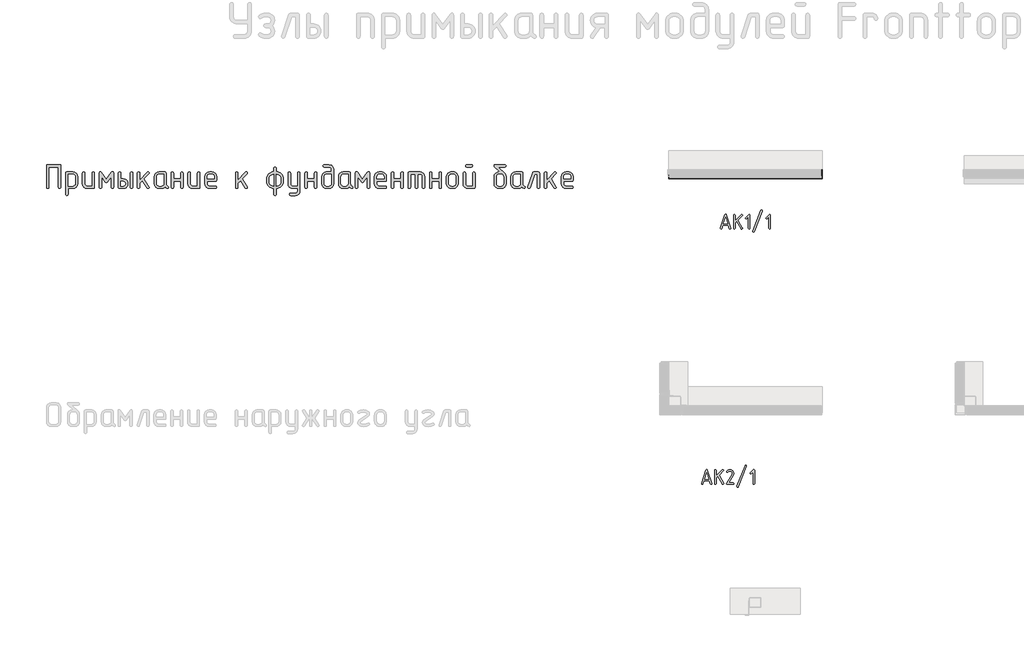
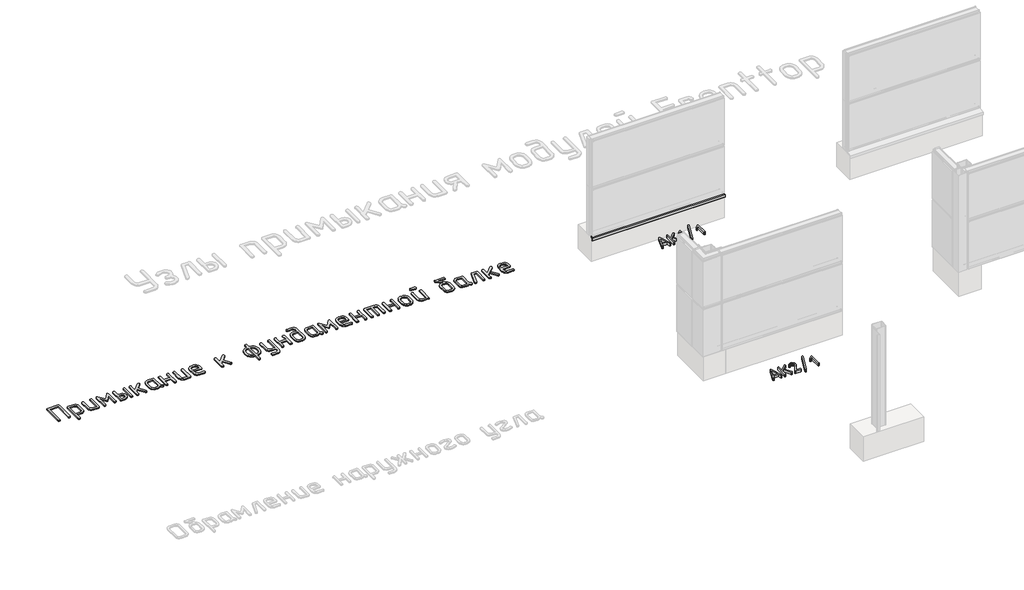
# One storey, part 20 of 37: 4 proxies.
"""IFC4 building model written with IfcOpenShell, lengths in millimetres."""

from ifc_helpers import new_model, si_unit, origin, origin_with_axes, place, context, project, spatial, polyline, outline, extrude, transform, mapped, element, save
from components import generic_models_c024c772

model = new_model("IFC4")

# Units and contexts
model_context = context("Model", 3, world=origin())
ifc_project = project(units=[si_unit("LENGTHUNIT", "METRE", prefix="MILLI")], contexts=[model_context])

# Site, building, storey
site = spatial("IfcSite", under=ifc_project)
building = spatial("IfcBuilding", under=site)
storey = spatial("IfcBuildingStorey", under=building, Name="Этаж 01", Elevation=0.0)

# Proxies
placement = place(None, origin())
element("IfcBuildingElementProxy", 1, Name="250 мм ГОСТ 2.304", ObjectType="250 мм ГОСТ 2.304", at=placement, inside=storey, context=model_context, shape_type="SweptSolid", body=[
    extrude(outline(polyline([(46740.8154984, -10106.1300608), (46722.9821438, -10160.0681368), (46718.7740979, -10166.3567408), (46711.2809603, -10168.4529422), (46702.5207159, -10165.1678505), (46698.5160328, -10156.8143318), (46699.6423499, -10152.0587706), (46774.3547197, -9927.9216611), (46779.2667139, -9919.9905113), (46785.9933301, -9917.3467947), (46793.0953853, -9919.9905113), (46797.6319404, -9927.9216611), (46872.7197493, -10152.0587706), (46873.4706274, -10156.8143318), (46869.4659443, -10165.1678505), (46860.7056999, -10168.4529422), (46855.2618338, -10167.7646372), (46849.0670895, -10160.0681368), (46831.1711617, -10106.1300608), (46740.8154984, -10106.1300608)]), holes=[polyline([(46822.7863564, -10080.9756448), (46785.9933301, -9970.9720048), (46749.2003037, -10080.9756448), (46822.7863564, -10080.9756448)])]), origin_with_axes(), (0.0, 0.0, 1.0), 50.0),
    extrude(outline(polyline([(46946.4935215, -10027.4130078), (47051.0532954, -9923.5415389), (47059.8135397, -9919.5368558), (47068.7615036, -9923.385106), (47072.5784672, -9932.3017833), (47068.5737841, -9941.0620276), (46994.6122924, -10015.0235194), (47070.7638452, -10150.2441485), (47072.5784672, -10156.8143318), (47068.5737841, -10165.7310091), (47059.4381007, -10169.2038202), (47053.3528595, -10167.4674147), (47048.8632343, -10162.2581979), (46976.0280597, -10032.1685691), (46946.4935215, -10061.3276682), (46946.4935215, -10156.4388927), (46943.0207104, -10165.7310091), (46934.1040331, -10168.8283812), (46925.1560692, -10165.5432896), (46921.3391055, -10156.4388927), (46921.3391055, -9932.3017833), (46925.1560692, -9923.1973865), (46934.1040331, -9919.9122948), (46942.6765579, -9923.1973865), (46946.4935215, -9932.3017833), (46946.4935215, -10027.4130078)])), origin_with_axes(), (0.0, 0.0, 1.0), 50.0),
    extrude(outline(polyline([(47196.2856323, -10156.4388927), (47192.8128212, -10165.7310091), (47183.8961439, -10168.8283812), (47175.323619, -10165.5432896), (47171.5066554, -10156.4388927), (47171.5066554, -9962.2117605), (47142.7229953, -9990.6199815), (47134.33819, -9994.6246646), (47125.3902261, -9990.807701), (47121.5732625, -9981.8597371), (47125.5779457, -9973.1620659), (47175.1358995, -9923.5415389), (47186.086205, -9918.0976728), (47193.3759797, -9921.7582035), (47196.2856323, -9932.3017833), (47196.2856323, -10156.4388927)])), origin_with_axes(), (0.0, 0.0, 1.0), 50.0),
    extrude(outline(polyline([(47407.1572289, -9861.9695356), (47270.1219777, -10210.7524078), (47265.3977031, -10216.571713), (47258.8588064, -10218.7617741), (47249.723123, -10215.2889629), (47245.7184398, -10206.3722856), (47246.4693179, -10201.6167244), (47383.5045691, -9852.8964254), (47388.2288437, -9847.014547), (47394.7677404, -9844.824486), (47403.9034238, -9848.4850166), (47407.908107, -9857.2139744), (47407.1572289, -9861.9695356)])), origin_with_axes(), (0.0, 0.0, 1.0), 50.0),
    extrude(outline(polyline([(47544.6930655, -10156.4388927), (47541.2202543, -10165.7310091), (47532.303577, -10168.8283812), (47523.7310521, -10165.5432896), (47519.9140885, -10156.4388927), (47519.9140885, -9962.2117605), (47491.1304285, -9990.6199815), (47482.7456231, -9994.6246646), (47473.7976593, -9990.807701), (47469.9806956, -9981.8597371), (47473.9853788, -9973.1620659), (47523.5433326, -9923.5415389), (47534.4936381, -9918.0976728), (47541.7834129, -9921.7582035), (47544.6930655, -9932.3017833), (47544.6930655, -10156.4388927)])), origin_with_axes(), (0.0, 0.0, 1.0), 50.0),
])
element("IfcBuildingElementProxy", 2, Name="400 мм ГОСТ 2.304", ObjectType="400 мм ГОСТ 2.304", at=placement, inside=storey, context=model_context, shape_type="SweptSolid", body=[
    extrude(outline(polyline([(35529.9614469, -9460.1102375), (35528.5584312, -9468.8696058), (35524.3493841, -9475.1262975), (35509.9400336, -9480.1316508), (35496.0868334, -9474.8229428), (35491.4606735, -9468.4904124), (35489.9186202, -9460.1102375), (35489.9186202, -9117.926082), (35329.1406039, -9117.926082), (35329.1406039, -9460.1102375), (35327.7375882, -9468.8696058), (35323.528541, -9475.1262975), (35309.1191905, -9480.1316508), (35294.6592809, -9474.8229428), (35290.033121, -9468.4904124), (35288.4910677, -9460.1102375), (35288.4910677, -9097.9046686), (35289.7803253, -9088.8798649), (35293.6480984, -9082.4335765), (35300.0943868, -9078.5658034), (35309.1191905, -9077.2765458), (35509.9400336, -9077.2765458), (35518.6994019, -9078.5658034), (35524.9560936, -9082.4335765), (35529.9614469, -9097.9046686), (35529.9614469, -9460.1102375)])), origin_with_axes(), (0.0, 0.0, 1.0), 20.0),
    extrude(outline(polyline([(35652.7190015, -9480.1316508), (35652.7190015, -9580.8454271), (35651.3159858, -9589.6047955), (35647.1069387, -9595.8614871), (35632.6975882, -9600.8668405), (35618.2376785, -9595.5581324), (35613.6115186, -9589.225602), (35612.0694653, -9580.8454271), (35612.0694653, -9218.6398582), (35613.358723, -9209.8804899), (35617.226496, -9203.6237982), (35632.6975882, -9198.6184449), (35732.8046549, -9198.6184449), (35764.1765918, -9204.3569055), (35789.9364658, -9221.5722875), (35807.6068798, -9247.6355162), (35813.4970179, -9278.7040983), (35813.4970179, -9399.4392879), (35807.6068798, -9430.9629021), (35800.2442073, -9444.7339437), (35789.9364658, -9457.1778083), (35764.1765918, -9474.3931902), (35732.8046549, -9480.1316508), (35652.7190015, -9480.1316508)]), holes=[polyline([(35652.7190015, -9440.0888241), (35732.8046549, -9440.0888241), (35748.566462, -9437.1437551), (35761.6739151, -9428.3085481), (35770.5091221, -9415.201095), (35773.4541911, -9399.4392879), (35773.4541911, -9278.7040983), (35770.5091221, -9263.3973233), (35761.6739151, -9250.4415476), (35748.566462, -9241.6063406), (35732.8046549, -9238.6612716), (35652.7190015, -9238.6612716), (35652.7190015, -9440.0888241)])]), origin_with_axes(), (0.0, 0.0, 1.0), 20.0),
    extrude(outline(polyline([(36098.2460078, -9460.1102375), (36093.2406545, -9475.1262975), (36078.2245944, -9480.1316508), (35977.5108182, -9480.1316508), (35946.4422361, -9474.3931902), (35920.3790073, -9457.1778083), (35910.0712658, -9444.7339437), (35902.7085933, -9430.9629021), (35896.8184553, -9399.4392879), (35896.8184553, -9218.6398582), (35898.2973097, -9210.2596833), (35902.7338728, -9203.927153), (35917.4465781, -9198.6184449), (35931.2997783, -9203.6237982), (35935.9259382, -9209.8804899), (35937.4679915, -9218.6398582), (35937.4679915, -9399.4392879), (35940.3372218, -9415.201095), (35948.9449128, -9428.3085481), (35961.8248498, -9437.1437551), (35977.5108182, -9440.0888241), (36058.2031811, -9440.0888241), (36058.2031811, -9218.6398582), (36059.6693957, -9210.2596833), (36064.0680395, -9203.927153), (36078.2245944, -9198.6184449), (36092.3305902, -9203.6237982), (36096.7671534, -9209.8804899), (36098.2460078, -9218.6398582), (36098.2460078, -9460.1102375)])), origin_with_axes(), (0.0, 0.0, 1.0), 20.0),
    extrude(outline(polyline([(36423.0378244, -9460.1102375), (36421.55897, -9468.4904124), (36417.1224069, -9474.8229428), (36403.0164111, -9480.1316508), (36388.5565014, -9475.1262975), (36384.3853737, -9468.8696058), (36382.9949977, -9460.1102375), (36382.9949977, -9281.029818), (36318.7849094, -9371.2272964), (36310.5184926, -9379.1145198), (36302.3026348, -9381.7435943), (36293.7834223, -9379.1145198), (36285.8203602, -9371.2272964), (36222.2169814, -9281.029818), (36222.2169814, -9460.1102375), (36220.6749281, -9468.4904124), (36216.0487682, -9474.8229428), (36202.195568, -9480.1316508), (36187.179508, -9475.1262975), (36182.9704609, -9468.8696058), (36181.5674452, -9460.1102375), (36181.5674452, -9218.6398582), (36186.5727985, -9201.2475194), (36192.2480603, -9196.6213595), (36199.2631388, -9195.0793062), (36209.6783185, -9198.037015), (36218.6778427, -9206.9101413), (36302.3026348, -9324.6117835), (36386.5341365, -9206.9101413), (36395.6347789, -9198.037015), (36405.3421308, -9195.0793062), (36412.3572094, -9196.6213595), (36418.0324711, -9201.2475194), (36423.0378244, -9218.6398582), (36423.0378244, -9460.1102375)])), origin_with_axes(), (0.0, 0.0, 1.0), 20.0),
    extrude(outline(polyline([(36746.6162221, -9460.1102375), (36745.2132064, -9468.8696058), (36741.0041593, -9475.1262975), (36726.5948087, -9480.1316508), (36712.7416086, -9474.8229428), (36708.1154487, -9468.4904124), (36706.5733954, -9460.1102375), (36706.5733954, -9218.6398582), (36708.03961, -9210.2596833), (36712.4382538, -9203.927153), (36726.5948087, -9198.6184449), (36740.7008045, -9203.6237982), (36745.1373677, -9209.8804899), (36746.6162221, -9218.6398582), (36746.6162221, -9460.1102375)])), origin_with_axes(), (0.0, 0.0, 1.0), 20.0),
    extrude(outline(polyline([(36545.7953791, -9319.3536345), (36585.8382058, -9319.3536345), (36603.9636519, -9320.9020077), (36620.1172923, -9325.5471273), (36634.2991267, -9333.2889932), (36646.5091553, -9344.1276056), (36661.5252153, -9368.825738), (36666.5305687, -9399.4392879), (36661.5252153, -9430.0781175), (36646.5091553, -9454.8520885), (36634.5266428, -9465.911897), (36620.420647, -9473.8117603), (36604.191168, -9478.5516782), (36585.8382058, -9480.1316508), (36525.7739657, -9480.1316508), (36510.3028736, -9475.1262975), (36506.4351005, -9468.8696058), (36505.1458428, -9460.1102375), (36505.1458428, -9218.6398582), (36506.6246972, -9210.2596833), (36511.0612604, -9203.927153), (36525.7739657, -9198.6184449), (36539.6271658, -9203.6237982), (36544.2533258, -9209.8804899), (36545.7953791, -9218.6398582), (36545.7953791, -9319.3536345)]), holes=[polyline([(36545.7953791, -9359.3964612), (36545.7953791, -9440.0888241), (36585.8382058, -9440.0888241), (36602.5985556, -9437.0679164), (36615.2636163, -9428.0051933), (36623.2266784, -9414.8219016), (36625.8810325, -9399.4392879), (36623.5300332, -9384.2715505), (36616.4770353, -9371.7328876), (36603.5086198, -9362.4805678), (36585.8382058, -9359.3964612), (36545.7953791, -9359.3964612)])]), origin_with_axes(), (0.0, 0.0, 1.0), 20.0),
    extrude(outline(polyline([(36910.0233129, -9348.1723356), (36865.2279285, -9395.2934397), (36865.2279285, -9460.1102375), (36863.8249128, -9468.8696058), (36859.6158657, -9475.1262975), (36845.2065151, -9480.1316508), (36831.1005194, -9474.8229428), (36826.6639562, -9468.4904124), (36825.1851018, -9460.1102375), (36825.1851018, -9218.6398582), (36826.5881175, -9210.2596833), (36830.7971646, -9203.927153), (36845.2065151, -9198.6184449), (36859.0597153, -9203.6237982), (36863.6858752, -9209.8804899), (36865.2279285, -9218.6398582), (36865.2279285, -9337.0493281), (36993.0413956, -9203.3710026), (36998.7545766, -9198.5173266), (37005.377822, -9196.8994346), (37013.1386476, -9198.5173266), (37019.8377316, -9203.3710026), (37024.4638915, -9210.4240005), (37026.0059448, -9218.6398582), (37019.5343769, -9234.0098321), (36938.2353045, -9318.746925), (37021.2533871, -9447.1671016), (37026.0059448, -9460.716947), (37024.3880528, -9468.7179285), (37019.5343769, -9475.1262975), (37005.377822, -9480.7383603), (36997.0102868, -9478.8171136), (36990.7156758, -9473.0533734), (36910.0233129, -9348.1723356)])), origin_with_axes(), (0.0, 0.0, 1.0), 20.0),
    extrude(outline(polyline([(37294.2726601, -9453.6386695), (37282.3407067, -9464.2813653), (37267.7796788, -9472.7500186), (37251.4490816, -9478.2862428), (37234.2084201, -9480.1316508), (37194.1655934, -9480.1316508), (37163.0970113, -9474.3931902), (37137.0337825, -9457.1778083), (37126.726041, -9444.7339437), (37119.3633685, -9430.9629021), (37113.4732304, -9399.4392879), (37113.4732304, -9278.7040983), (37119.3633685, -9248.0905483), (37137.0337825, -9222.178997), (37163.0970113, -9204.5085829), (37194.1655934, -9198.6184449), (37294.8793696, -9198.6184449), (37309.8954296, -9203.6237982), (37314.900783, -9218.6398582), (37314.900783, -9399.4392879), (37316.8093899, -9412.4709023), (37322.5352108, -9424.4660546), (37331.3704178, -9434.5399602), (37342.6071833, -9441.8078344), (37352.3145352, -9448.9113914), (37355.5503192, -9459.503528), (37349.9382564, -9474.2667924), (37343.5298873, -9479.1204684), (37335.5289058, -9480.7383603), (37327.2372094, -9478.4126406), (37308.6820107, -9467.7699449), (37294.2726601, -9453.6386695)]), holes=[polyline([(37274.8579563, -9399.4392879), (37274.8579563, -9238.6612716), (37194.1655934, -9238.6612716), (37178.4796249, -9241.6063406), (37165.5996879, -9250.4415476), (37156.991997, -9263.3973233), (37154.1227666, -9278.7040983), (37154.1227666, -9399.4392879), (37156.991997, -9415.201095), (37165.5996879, -9428.3085481), (37178.4796249, -9437.1437551), (37194.1655934, -9440.0888241), (37234.2084201, -9440.0888241), (37249.9702272, -9437.1437551), (37263.0776802, -9428.3085481), (37271.9128873, -9415.201095), (37274.8579563, -9399.4392879)])]), origin_with_axes(), (0.0, 0.0, 1.0), 20.0),
    extrude(outline(polyline([(37559.6069462, -9319.3536345), (37559.6069462, -9218.6398582), (37561.0731608, -9210.2596833), (37565.4718047, -9203.927153), (37579.6283596, -9198.6184449), (37593.7343553, -9203.6237982), (37598.1709185, -9209.8804899), (37599.6497729, -9218.6398582), (37599.6497729, -9460.1102375), (37598.2467572, -9468.8696058), (37594.0377101, -9475.1262975), (37579.6283596, -9480.1316508), (37565.4718047, -9474.8229428), (37561.0731608, -9468.4904124), (37559.6069462, -9460.1102375), (37559.6069462, -9359.3964612), (37438.8717566, -9359.3964612), (37438.8717566, -9460.1102375), (37437.4687409, -9468.8696058), (37433.2596938, -9475.1262975), (37418.8503432, -9480.1316508), (37404.3904336, -9474.8229428), (37399.7642737, -9468.4904124), (37398.2222204, -9460.1102375), (37398.2222204, -9218.6398582), (37399.7010748, -9210.2596833), (37404.137638, -9203.927153), (37418.8503432, -9198.6184449), (37432.7035434, -9203.6237982), (37437.3297033, -9209.8804899), (37438.8717566, -9218.6398582), (37438.8717566, -9319.3536345), (37559.6069462, -9319.3536345)])), origin_with_axes(), (0.0, 0.0, 1.0), 20.0),
    extrude(outline(polyline([(37884.3987629, -9460.1102375), (37879.3934095, -9475.1262975), (37864.3773495, -9480.1316508), (37763.6635732, -9480.1316508), (37732.5949911, -9474.3931902), (37706.5317624, -9457.1778083), (37696.2240209, -9444.7339437), (37688.8613483, -9430.9629021), (37682.9712103, -9399.4392879), (37682.9712103, -9218.6398582), (37684.4500647, -9210.2596833), (37688.8866279, -9203.927153), (37703.5993332, -9198.6184449), (37717.4525333, -9203.6237982), (37722.0786932, -9209.8804899), (37723.6207465, -9218.6398582), (37723.6207465, -9399.4392879), (37726.4899768, -9415.201095), (37735.0976678, -9428.3085481), (37747.9776048, -9437.1437551), (37763.6635732, -9440.0888241), (37844.3559361, -9440.0888241), (37844.3559361, -9218.6398582), (37845.8221508, -9210.2596833), (37850.2207946, -9203.927153), (37864.3773495, -9198.6184449), (37878.4833453, -9203.6237982), (37882.9199085, -9209.8804899), (37884.3987629, -9218.6398582), (37884.3987629, -9460.1102375)])), origin_with_axes(), (0.0, 0.0, 1.0), 20.0),
    extrude(outline(polyline([(38008.3697365, -9359.3964612), (38008.3697365, -9399.4392879), (38011.2389668, -9415.201095), (38019.8466578, -9428.3085481), (38032.7265948, -9437.1437551), (38048.4125632, -9440.0888241), (38149.1263394, -9440.0888241), (38157.8857078, -9441.4918398), (38164.1423995, -9445.700887), (38169.1477528, -9460.1102375), (38163.8390447, -9473.9634376), (38157.5065143, -9478.5895975), (38149.1263394, -9480.1316508), (38048.4125632, -9480.1316508), (38017.3439811, -9474.3931902), (37991.2807523, -9457.1778083), (37980.9730108, -9444.7339437), (37973.6103383, -9430.9629021), (37967.7202003, -9399.4392879), (37967.7202003, -9278.7040983), (37973.6103383, -9247.7871936), (37980.9730108, -9234.3195068), (37991.2807523, -9222.178997), (38017.3439811, -9204.5085829), (38048.4125632, -9198.6184449), (38088.4553899, -9198.6184449), (38119.8273267, -9204.3569055), (38145.5872007, -9221.5722875), (38163.2576148, -9247.6355162), (38169.1477528, -9278.7040983), (38169.1477528, -9339.3750479), (38164.1423995, -9354.3911079), (38149.1263394, -9359.3964612), (38008.3697365, -9359.3964612)]), holes=[polyline([(38008.3697365, -9319.3536345), (38129.1049261, -9319.3536345), (38129.1049261, -9278.7040983), (38126.1598571, -9263.3973233), (38117.32465, -9250.4415476), (38104.217197, -9241.6063406), (38088.4553899, -9238.6612716), (38048.4125632, -9238.6612716), (38032.7265948, -9241.6063406), (38019.8466578, -9250.4415476), (38011.2389668, -9263.3973233), (38008.3697365, -9278.7040983), (38008.3697365, -9319.3536345)])]), origin_with_axes(), (0.0, 0.0, 1.0), 20.0),
    extrude(outline(polyline([(38573.2162769, -9348.1723356), (38528.4208924, -9395.2934397), (38528.4208924, -9460.1102375), (38527.0178767, -9468.8696058), (38522.8088296, -9475.1262975), (38508.3994791, -9480.1316508), (38494.2934833, -9474.8229428), (38489.8569201, -9468.4904124), (38488.3780657, -9460.1102375), (38488.3780657, -9218.6398582), (38489.7810814, -9210.2596833), (38493.9901286, -9203.927153), (38508.3994791, -9198.6184449), (38522.2526792, -9203.6237982), (38526.8788391, -9209.8804899), (38528.4208924, -9218.6398582), (38528.4208924, -9337.0493281), (38656.2343595, -9203.3710026), (38661.9475406, -9198.5173266), (38668.5707859, -9196.8994346), (38676.3316116, -9198.5173266), (38683.0306956, -9203.3710026), (38687.6568555, -9210.4240005), (38689.1989088, -9218.6398582), (38682.7273408, -9234.0098321), (38601.4282684, -9318.746925), (38684.4463511, -9447.1671016), (38689.1989088, -9460.716947), (38687.5810168, -9468.7179285), (38682.7273408, -9475.1262975), (38668.5707859, -9480.7383603), (38660.2032508, -9478.8171136), (38653.9086398, -9473.0533734), (38573.2162769, -9348.1723356)])), origin_with_axes(), (0.0, 0.0, 1.0), 20.0),
    extrude(outline(polyline([(39177.4989345, -9198.6184449), (39201.8305132, -9200.7924872), (39224.1650065, -9207.3146143), (39244.5024144, -9218.1848261), (39262.8427369, -9233.4031226), (39278.3264688, -9251.7813644), (39289.3862773, -9272.2325304), (39296.0221624, -9294.7566204), (39298.2341241, -9319.3536345), (39298.2341241, -9359.3964612), (39296.0253224, -9383.5036838), (39289.3989171, -9405.7718183), (39278.3549083, -9426.2008646), (39262.893296, -9444.7908227), (39244.3033379, -9460.252435), (39223.8742916, -9471.2964438), (39201.6061571, -9477.9228491), (39177.4989345, -9480.1316508), (39177.4989345, -9580.8454271), (39176.0959188, -9589.6047955), (39171.8868717, -9595.8614871), (39157.4775211, -9600.8668405), (39143.0176115, -9595.5581324), (39138.3914516, -9589.225602), (39136.8493983, -9580.8454271), (39136.8493983, -9480.1316508), (39112.7421757, -9477.9228491), (39090.4740412, -9471.2964438), (39070.0449949, -9460.252435), (39051.4550368, -9444.7908227), (39035.9934245, -9426.2008646), (39024.9494157, -9405.7718183), (39018.3230104, -9383.5036838), (39016.1142087, -9359.3964612), (39016.1142087, -9319.3536345), (39018.3198505, -9295.0220558), (39024.9367759, -9272.6875625), (39035.964985, -9252.3501546), (39051.4044777, -9234.0098321), (39070.0165554, -9218.5261002), (39090.4614014, -9207.4662917), (39112.7390157, -9200.8304066), (39136.8493983, -9198.6184449), (39136.8493983, -9137.9474953), (39138.3156129, -9129.5673204), (39142.7142567, -9123.2347901), (39157.4775211, -9117.926082), (39171.3307213, -9123.2347901), (39175.9568812, -9129.5673204), (39177.4989345, -9137.9474953), (39177.4989345, -9198.6184449)]), holes=[polyline([(39177.4989345, -9238.6612716), (39177.4989345, -9440.0888241), (39208.4158392, -9434.1986861), (39221.883526, -9426.8360136), (39234.0240358, -9416.5282721), (39251.6944499, -9390.4650433), (39257.5845879, -9359.3964612), (39257.5845879, -9319.3536345), (39251.6944499, -9288.2850524), (39234.0240358, -9262.2218237), (39208.1124845, -9244.5514096), (39177.4989345, -9238.6612716)]), polyline([(39136.8493983, -9440.0888241), (39136.8493983, -9238.6612716), (39106.2358483, -9244.5514096), (39080.3242969, -9262.2218237), (39062.6538829, -9288.2850524), (39056.7637449, -9319.3536345), (39056.7637449, -9359.3964612), (39062.6538829, -9390.4650433), (39080.3242969, -9416.5282721), (39106.2358483, -9434.1986861), (39136.8493983, -9440.0888241)])]), origin_with_axes(), (0.0, 0.0, 1.0), 20.0),
    extrude(outline(polyline([(39539.9067399, -9480.1316508), (39459.214377, -9480.1316508), (39428.1457949, -9474.3931902), (39402.0825661, -9457.1778083), (39391.7748246, -9444.7339437), (39384.4121521, -9430.9629021), (39378.522014, -9399.4392879), (39378.522014, -9218.6398582), (39380.0008684, -9210.2596833), (39384.4374316, -9203.927153), (39399.1501369, -9198.6184449), (39413.003337, -9203.6237982), (39417.6294969, -9209.8804899), (39419.1715502, -9218.6398582), (39419.1715502, -9399.4392879), (39422.0407806, -9415.201095), (39430.6484715, -9428.3085481), (39443.5284085, -9437.1437551), (39459.214377, -9440.0888241), (39539.9067399, -9440.0888241), (39539.9067399, -9218.6398582), (39541.3729545, -9210.2596833), (39545.7715983, -9203.927153), (39559.9281532, -9198.6184449), (39574.034149, -9203.6237982), (39578.4707122, -9209.8804899), (39579.9495666, -9218.6398582), (39579.9495666, -9520.1744776), (39574.2111059, -9551.5464144), (39556.995724, -9577.3062884), (39544.5518594, -9587.6140299), (39530.7808179, -9594.9767024), (39499.2572037, -9600.8668405), (39419.1715502, -9600.8668405), (39410.7913753, -9599.3879861), (39404.458845, -9594.9514229), (39399.1501369, -9580.8454271), (39404.1554902, -9566.6888722), (39410.4121819, -9562.2902284), (39419.1715502, -9560.8240138), (39499.2572037, -9560.8240138), (39515.0190108, -9557.8789447), (39528.1264638, -9549.0437377), (39536.9616709, -9535.9362847), (39539.9067399, -9520.1744776), (39539.9067399, -9480.1316508)])), origin_with_axes(), (0.0, 0.0, 1.0), 20.0),
    extrude(outline(polyline([(39824.6557298, -9319.3536345), (39824.6557298, -9218.6398582), (39826.1219444, -9210.2596833), (39830.5205883, -9203.927153), (39844.6771432, -9198.6184449), (39858.7831389, -9203.6237982), (39863.2197021, -9209.8804899), (39864.6985565, -9218.6398582), (39864.6985565, -9460.1102375), (39863.2955408, -9468.8696058), (39859.0864937, -9475.1262975), (39844.6771432, -9480.1316508), (39830.5205883, -9474.8229428), (39826.1219444, -9468.4904124), (39824.6557298, -9460.1102375), (39824.6557298, -9359.3964612), (39703.9205402, -9359.3964612), (39703.9205402, -9460.1102375), (39702.5175245, -9468.8696058), (39698.3084773, -9475.1262975), (39683.8991268, -9480.1316508), (39669.4392172, -9474.8229428), (39664.8130573, -9468.4904124), (39663.271004, -9460.1102375), (39663.271004, -9218.6398582), (39664.7498584, -9210.2596833), (39669.1864216, -9203.927153), (39683.8991268, -9198.6184449), (39697.752327, -9203.6237982), (39702.3784869, -9209.8804899), (39703.9205402, -9218.6398582), (39703.9205402, -9319.3536345), (39824.6557298, -9319.3536345)])), origin_with_axes(), (0.0, 0.0, 1.0), 20.0),
    extrude(outline(polyline([(40109.4047197, -9198.6184449), (40109.4047197, -9157.9689087), (40106.4596507, -9142.2829403), (40097.6244437, -9129.4030033), (40084.5169906, -9120.7953123), (40068.7551835, -9117.926082), (39988.6695301, -9117.926082), (39980.2893552, -9116.4598674), (39973.9568248, -9112.0612235), (39968.6481168, -9097.9046686), (39973.6534701, -9083.4953181), (39979.9101618, -9078.8312388), (39988.6695301, -9077.2765458), (40068.7551835, -9077.2765458), (40100.1271204, -9083.1666838), (40113.7085652, -9090.5293563), (40125.8869944, -9100.8370978), (40143.5574084, -9126.9003266), (40149.4475465, -9157.9689087), (40149.4475465, -9399.4392879), (40143.5574084, -9430.9629021), (40136.1947359, -9444.7339437), (40125.8869944, -9457.1778083), (40100.1271204, -9474.3931902), (40068.7551835, -9480.1316508), (40028.7123568, -9480.1316508), (39997.6437747, -9474.3931902), (39971.580546, -9457.1778083), (39961.2728045, -9444.7339437), (39953.9101319, -9430.9629021), (39948.0199939, -9399.4392879), (39948.0199939, -9278.7040983), (39953.9101319, -9248.0905483), (39971.580546, -9222.178997), (39997.6437747, -9204.5085829), (40028.7123568, -9198.6184449), (40109.4047197, -9198.6184449)]), holes=[polyline([(40109.4047197, -9238.6612716), (40028.7123568, -9238.6612716), (40013.0263884, -9241.6063406), (40000.1464514, -9250.4415476), (39991.5387604, -9263.3973233), (39988.6695301, -9278.7040983), (39988.6695301, -9399.4392879), (39991.5387604, -9415.201095), (40000.1464514, -9428.3085481), (40013.0263884, -9437.1437551), (40028.7123568, -9440.0888241), (40068.7551835, -9440.0888241), (40084.5169906, -9437.1437551), (40097.6244437, -9428.3085481), (40106.4596507, -9415.201095), (40109.4047197, -9399.4392879), (40109.4047197, -9238.6612716)])]), origin_with_axes(), (0.0, 0.0, 1.0), 20.0),
    extrude(outline(polyline([(40413.5684135, -9453.6386695), (40401.6364601, -9464.2813653), (40387.0754322, -9472.7500186), (40370.744835, -9478.2862428), (40353.5041735, -9480.1316508), (40313.4613468, -9480.1316508), (40282.3927647, -9474.3931902), (40256.3295359, -9457.1778083), (40246.0217944, -9444.7339437), (40238.6591219, -9430.9629021), (40232.7689838, -9399.4392879), (40232.7689838, -9278.7040983), (40238.6591219, -9248.0905483), (40256.3295359, -9222.178997), (40282.3927647, -9204.5085829), (40313.4613468, -9198.6184449), (40414.175123, -9198.6184449), (40429.191183, -9203.6237982), (40434.1965364, -9218.6398582), (40434.1965364, -9399.4392879), (40436.1051433, -9412.4709023), (40441.8309642, -9424.4660546), (40450.6661712, -9434.5399602), (40461.9029367, -9441.8078344), (40471.6102886, -9448.9113914), (40474.8460726, -9459.503528), (40469.2340098, -9474.2667924), (40462.8256407, -9479.1204684), (40454.8246592, -9480.7383603), (40446.5329628, -9478.4126406), (40427.9777641, -9467.7699449), (40413.5684135, -9453.6386695)]), holes=[polyline([(40394.1537097, -9399.4392879), (40394.1537097, -9238.6612716), (40313.4613468, -9238.6612716), (40297.7753783, -9241.6063406), (40284.8954413, -9250.4415476), (40276.2877504, -9263.3973233), (40273.4185201, -9278.7040983), (40273.4185201, -9399.4392879), (40276.2877504, -9415.201095), (40284.8954413, -9428.3085481), (40297.7753783, -9437.1437551), (40313.4613468, -9440.0888241), (40353.5041735, -9440.0888241), (40369.2659806, -9437.1437551), (40382.3734336, -9428.3085481), (40391.2086407, -9415.201095), (40394.1537097, -9399.4392879)])]), origin_with_axes(), (0.0, 0.0, 1.0), 20.0),
    extrude(outline(polyline([(40758.988353, -9460.1102375), (40757.5094986, -9468.4904124), (40753.0729355, -9474.8229428), (40738.9669397, -9480.1316508), (40724.50703, -9475.1262975), (40720.3359023, -9468.8696058), (40718.9455263, -9460.1102375), (40718.9455263, -9281.029818), (40654.735438, -9371.2272964), (40646.4690212, -9379.1145198), (40638.2531634, -9381.7435943), (40629.7339509, -9379.1145198), (40621.7708888, -9371.2272964), (40558.16751, -9281.029818), (40558.16751, -9460.1102375), (40556.6254567, -9468.4904124), (40551.9992968, -9474.8229428), (40538.1460966, -9480.1316508), (40523.1300366, -9475.1262975), (40518.9209895, -9468.8696058), (40517.5179738, -9460.1102375), (40517.5179738, -9218.6398582), (40522.5233271, -9201.2475194), (40528.1985889, -9196.6213595), (40535.2136674, -9195.0793062), (40545.6288471, -9198.037015), (40554.6283713, -9206.9101413), (40638.2531634, -9324.6117835), (40722.484665, -9206.9101413), (40731.5853075, -9198.037015), (40741.2926594, -9195.0793062), (40748.307738, -9196.6213595), (40753.9829997, -9201.2475194), (40758.988353, -9218.6398582), (40758.988353, -9460.1102375)])), origin_with_axes(), (0.0, 0.0, 1.0), 20.0),
    extrude(outline(polyline([(40881.7459076, -9359.3964612), (40881.7459076, -9399.4392879), (40884.615138, -9415.201095), (40893.2228289, -9428.3085481), (40906.1027659, -9437.1437551), (40921.7887344, -9440.0888241), (41022.5025106, -9440.0888241), (41031.261879, -9441.4918398), (41037.5185706, -9445.700887), (41042.523924, -9460.1102375), (41037.2152159, -9473.9634376), (41030.8826855, -9478.5895975), (41022.5025106, -9480.1316508), (40921.7887344, -9480.1316508), (40890.7201523, -9474.3931902), (40864.6569235, -9457.1778083), (40854.349182, -9444.7339437), (40846.9865095, -9430.9629021), (40841.0963714, -9399.4392879), (40841.0963714, -9278.7040983), (40846.9865095, -9247.7871936), (40854.349182, -9234.3195068), (40864.6569235, -9222.178997), (40890.7201523, -9204.5085829), (40921.7887344, -9198.6184449), (40961.8315611, -9198.6184449), (40993.2034979, -9204.3569055), (41018.9633719, -9221.5722875), (41036.633786, -9247.6355162), (41042.523924, -9278.7040983), (41042.523924, -9339.3750479), (41037.5185706, -9354.3911079), (41022.5025106, -9359.3964612), (40881.7459076, -9359.3964612)]), holes=[polyline([(40881.7459076, -9319.3536345), (41002.4810973, -9319.3536345), (41002.4810973, -9278.7040983), (40999.5360283, -9263.3973233), (40990.7008212, -9250.4415476), (40977.5933682, -9241.6063406), (40961.8315611, -9238.6612716), (40921.7887344, -9238.6612716), (40906.1027659, -9241.6063406), (40893.2228289, -9250.4415476), (40884.615138, -9263.3973233), (40881.7459076, -9278.7040983), (40881.7459076, -9319.3536345)])]), origin_with_axes(), (0.0, 0.0, 1.0), 20.0),
    extrude(outline(polyline([(41287.2300872, -9319.3536345), (41287.2300872, -9218.6398582), (41288.6963018, -9210.2596833), (41293.0949457, -9203.927153), (41307.2515006, -9198.6184449), (41321.3574963, -9203.6237982), (41325.7940595, -9209.8804899), (41327.2729139, -9218.6398582), (41327.2729139, -9460.1102375), (41325.8698982, -9468.8696058), (41321.6608511, -9475.1262975), (41307.2515006, -9480.1316508), (41293.0949457, -9474.8229428), (41288.6963018, -9468.4904124), (41287.2300872, -9460.1102375), (41287.2300872, -9359.3964612), (41166.4948976, -9359.3964612), (41166.4948976, -9460.1102375), (41165.0918819, -9468.8696058), (41160.8828347, -9475.1262975), (41146.4734842, -9480.1316508), (41132.0135746, -9474.8229428), (41127.3874147, -9468.4904124), (41125.8453614, -9460.1102375), (41125.8453614, -9218.6398582), (41127.3242158, -9210.2596833), (41131.760779, -9203.927153), (41146.4734842, -9198.6184449), (41160.3266844, -9203.6237982), (41164.9528443, -9209.8804899), (41166.4948976, -9218.6398582), (41166.4948976, -9319.3536345), (41287.2300872, -9319.3536345)])), origin_with_axes(), (0.0, 0.0, 1.0), 20.0),
    extrude(outline(polyline([(41531.3295409, -9238.6612716), (41451.2438875, -9238.6612716), (41451.2438875, -9460.1102375), (41449.8408718, -9468.8696058), (41445.6318247, -9475.1262975), (41431.2224742, -9480.1316508), (41416.7625645, -9474.8229428), (41412.1364046, -9468.4904124), (41410.5943513, -9460.1102375), (41410.5943513, -9218.6398582), (41411.883609, -9209.8804899), (41415.751382, -9203.6237982), (41431.2224742, -9198.6184449), (41612.0219039, -9198.6184449), (41643.3938407, -9204.3569055), (41669.1537147, -9221.5722875), (41686.8241288, -9247.6355162), (41692.7142668, -9278.7040983), (41692.7142668, -9460.1102375), (41691.3112511, -9468.8696058), (41687.1022039, -9475.1262975), (41672.6928534, -9480.1316508), (41658.2329438, -9474.8229428), (41653.6067839, -9468.4904124), (41652.0647306, -9460.1102375), (41652.0647306, -9278.7040983), (41649.1955002, -9263.3973233), (41640.5878093, -9250.4415476), (41627.7078723, -9241.6063406), (41612.0219039, -9238.6612716), (41571.9790771, -9238.6612716), (41571.9790771, -9460.1102375), (41570.5760614, -9468.8696058), (41566.3670143, -9475.1262975), (41551.9576638, -9480.1316508), (41537.4977541, -9474.8229428), (41532.8715942, -9468.4904124), (41531.3295409, -9460.1102375), (41531.3295409, -9238.6612716)])), origin_with_axes(), (0.0, 0.0, 1.0), 20.0),
    extrude(outline(polyline([(41934.3868825, -9319.3536345), (41934.3868825, -9218.6398582), (41935.8530971, -9210.2596833), (41940.251741, -9203.927153), (41954.4082959, -9198.6184449), (41968.5142916, -9203.6237982), (41972.9508548, -9209.8804899), (41974.4297092, -9218.6398582), (41974.4297092, -9460.1102375), (41973.0266935, -9468.8696058), (41968.8176464, -9475.1262975), (41954.4082959, -9480.1316508), (41940.251741, -9474.8229428), (41935.8530971, -9468.4904124), (41934.3868825, -9460.1102375), (41934.3868825, -9359.3964612), (41813.6516929, -9359.3964612), (41813.6516929, -9460.1102375), (41812.2486772, -9468.8696058), (41808.0396301, -9475.1262975), (41793.6302795, -9480.1316508), (41779.1703699, -9474.8229428), (41774.54421, -9468.4904124), (41773.0021567, -9460.1102375), (41773.0021567, -9218.6398582), (41774.4810111, -9210.2596833), (41778.9175743, -9203.927153), (41793.6302795, -9198.6184449), (41807.4834797, -9203.6237982), (41812.1096396, -9209.8804899), (41813.6516929, -9218.6398582), (41813.6516929, -9319.3536345), (41934.3868825, -9319.3536345)])), origin_with_axes(), (0.0, 0.0, 1.0), 20.0),
    extrude(outline(polyline([(42259.1786992, -9391.754301), (42257.5608072, -9409.6143118), (42252.7071312, -9426.0839466), (42244.6176713, -9441.1632055), (42233.2924274, -9454.8520885), (42219.8689798, -9465.911897), (42204.9793176, -9473.8117603), (42188.6234407, -9478.5516782), (42170.8013493, -9480.1316508), (42146.6340877, -9480.1316508), (42128.8183162, -9478.5516782), (42112.3802808, -9473.8117603), (42097.3199815, -9465.911897), (42083.6374184, -9454.8520885), (42072.3121745, -9441.1632055), (42064.2227146, -9426.0839466), (42059.3690386, -9409.6143118), (42057.7511466, -9391.754301), (42057.7511466, -9286.9957947), (42059.3690386, -9269.4012194), (42064.2227146, -9253.1211812), (42072.3121745, -9238.1556803), (42083.6374184, -9224.5047167), (42097.7370943, -9213.1794728), (42112.9364312, -9205.0900128), (42129.235429, -9200.2363369), (42146.6340877, -9198.6184449), (42170.8013493, -9198.6184449), (42188.3927647, -9200.2394968), (42204.663323, -9205.1026526), (42219.6130242, -9213.2079123), (42233.2418682, -9224.5552758), (42244.5892318, -9238.1841199), (42252.6944914, -9253.133821), (42257.5576472, -9269.4043793), (42259.1786992, -9286.9957947), (42259.1786992, -9391.754301)]), holes=[polyline([(42219.1358725, -9391.754301), (42219.1358725, -9286.9957947), (42215.5967337, -9268.440596), (42204.9793176, -9252.8178265), (42189.356548, -9242.2004103), (42170.8013493, -9238.6612716), (42146.6340877, -9238.6612716), (42128.0915288, -9242.2004103), (42112.5066786, -9252.8178265), (42101.9271818, -9268.440596), (42098.4006828, -9286.9957947), (42098.4006828, -9391.754301), (42101.9271818, -9410.3094997), (42112.5066786, -9425.9322692), (42128.0915288, -9436.5496854), (42146.6340877, -9440.0888241), (42170.8013493, -9440.0888241), (42189.356548, -9436.5496854), (42204.9793176, -9425.9322692), (42215.5967337, -9410.3094997), (42219.1358725, -9391.754301)])]), origin_with_axes(), (0.0, 0.0, 1.0), 20.0),
    extrude(outline(polyline([(42483.863449, -9117.926082), (42403.1710861, -9117.926082), (42394.7909112, -9116.4598674), (42388.4583809, -9112.0612235), (42383.1496728, -9097.9046686), (42388.1550261, -9083.4953181), (42394.4117178, -9078.8312388), (42403.1710861, -9077.2765458), (42483.863449, -9077.2765458), (42492.6228174, -9078.7554002), (42498.8795091, -9083.1919633), (42503.8848624, -9097.9046686), (42498.5761543, -9111.7578688), (42492.2436239, -9116.3840287), (42483.863449, -9117.926082)])), origin_with_axes(), (0.0, 0.0, 1.0), 20.0),
    extrude(outline(polyline([(42543.9276891, -9460.1102375), (42538.9223358, -9475.1262975), (42523.9062758, -9480.1316508), (42423.1924995, -9480.1316508), (42392.1239174, -9474.3931902), (42366.0606886, -9457.1778083), (42355.7529471, -9444.7339437), (42348.3902746, -9430.9629021), (42342.5001366, -9399.4392879), (42342.5001366, -9218.6398582), (42343.978991, -9210.2596833), (42348.4155541, -9203.927153), (42363.1282594, -9198.6184449), (42376.9814596, -9203.6237982), (42381.6076195, -9209.8804899), (42383.1496728, -9218.6398582), (42383.1496728, -9399.4392879), (42386.0189031, -9415.201095), (42394.6265941, -9428.3085481), (42407.5065311, -9437.1437551), (42423.1924995, -9440.0888241), (42503.8848624, -9440.0888241), (42503.8848624, -9218.6398582), (42505.351077, -9210.2596833), (42509.7497209, -9203.927153), (42523.9062758, -9198.6184449), (42538.0122715, -9203.6237982), (42542.4488347, -9209.8804899), (42543.9276891, -9218.6398582), (42543.9276891, -9460.1102375)])), origin_with_axes(), (0.0, 0.0, 1.0), 20.0),
    extrude(outline(polyline([(42963.2650688, -9198.6184449), (42873.1687087, -9112.0612235), (42867.4049685, -9104.4015161), (42865.4837218, -9095.5789489), (42870.7924299, -9082.5852538), (42877.5799923, -9078.6037228), (42887.3252636, -9077.2765458), (43048.10328, -9077.2765458), (43056.8626483, -9078.7554002), (43063.11934, -9083.1919633), (43068.1246933, -9097.9046686), (43062.8159852, -9111.7578688), (43056.4834549, -9116.3840287), (43048.10328, -9117.926082), (42937.378797, -9117.926082), (43043.9574317, -9219.8532772), (43048.7099894, -9226.3248452), (43063.2710173, -9250.593225), (43068.1246933, -9278.7040983), (43068.1246933, -9399.4392879), (43062.2345553, -9430.9629021), (43054.8718828, -9444.7339437), (43044.5641412, -9457.1778083), (43018.8042672, -9474.3931902), (42987.4323304, -9480.1316508), (42947.3895037, -9480.1316508), (42916.3209216, -9474.3931902), (42890.2576928, -9457.1778083), (42879.9499513, -9444.7339437), (42872.5872788, -9430.9629021), (42866.6971408, -9399.4392879), (42866.6971408, -9278.7040983), (42872.5872788, -9248.0905483), (42890.2576928, -9222.178997), (42916.3209216, -9204.5085829), (42947.3895037, -9198.6184449), (42963.2650688, -9198.6184449)]), holes=[polyline([(43028.0818666, -9399.4392879), (43028.0818666, -9278.7040983), (43025.1367976, -9263.3973233), (43016.3015906, -9250.4415476), (43003.1941375, -9241.6063406), (42987.4323304, -9238.6612716), (42947.3895037, -9238.6612716), (42931.7035353, -9241.6063406), (42918.8235983, -9250.4415476), (42910.2159073, -9263.3973233), (42907.346677, -9278.7040983), (42907.346677, -9399.4392879), (42910.2159073, -9415.201095), (42918.8235983, -9428.3085481), (42931.7035353, -9437.1437551), (42947.3895037, -9440.0888241), (42987.4323304, -9440.0888241), (43003.1941375, -9437.1437551), (43016.3015906, -9428.3085481), (43025.1367976, -9415.201095), (43028.0818666, -9399.4392879)])]), origin_with_axes(), (0.0, 0.0, 1.0), 20.0),
    extrude(outline(polyline([(43332.2455604, -9453.6386695), (43320.313607, -9464.2813653), (43305.7525791, -9472.7500186), (43289.4219818, -9478.2862428), (43272.1813203, -9480.1316508), (43232.1384936, -9480.1316508), (43201.0699115, -9474.3931902), (43175.0066828, -9457.1778083), (43164.6989412, -9444.7339437), (43157.3362687, -9430.9629021), (43151.4461307, -9399.4392879), (43151.4461307, -9278.7040983), (43157.3362687, -9248.0905483), (43175.0066828, -9222.178997), (43201.0699115, -9204.5085829), (43232.1384936, -9198.6184449), (43332.8522699, -9198.6184449), (43347.8683299, -9203.6237982), (43352.8736832, -9218.6398582), (43352.8736832, -9399.4392879), (43354.7822902, -9412.4709023), (43360.5081111, -9424.4660546), (43369.3433181, -9434.5399602), (43380.5800835, -9441.8078344), (43390.2874355, -9448.9113914), (43393.5232195, -9459.503528), (43387.9111566, -9474.2667924), (43381.5027876, -9479.1204684), (43373.5018061, -9480.7383603), (43365.2101097, -9478.4126406), (43346.6549109, -9467.7699449), (43332.2455604, -9453.6386695)]), holes=[polyline([(43312.8308565, -9399.4392879), (43312.8308565, -9238.6612716), (43232.1384936, -9238.6612716), (43216.4525252, -9241.6063406), (43203.5725882, -9250.4415476), (43194.9648972, -9263.3973233), (43192.0956669, -9278.7040983), (43192.0956669, -9399.4392879), (43194.9648972, -9415.201095), (43203.5725882, -9428.3085481), (43216.4525252, -9437.1437551), (43232.1384936, -9440.0888241), (43272.1813203, -9440.0888241), (43287.9431274, -9437.1437551), (43301.0505805, -9428.3085481), (43309.8857875, -9415.201095), (43312.8308565, -9399.4392879)])]), origin_with_axes(), (0.0, 0.0, 1.0), 20.0),
    extrude(outline(polyline([(43637.6226732, -9460.1102375), (43636.2196575, -9468.8696058), (43632.0106103, -9475.1262975), (43617.6012598, -9480.1316508), (43603.4447049, -9474.8229428), (43599.0460611, -9468.4904124), (43597.5798465, -9460.1102375), (43597.5798465, -9238.6612716), (43551.0654518, -9238.6612716), (43475.6312379, -9466.5818054), (43468.3001648, -9476.5925121), (43457.429953, -9480.1316508), (43442.9700433, -9474.8229428), (43438.3438834, -9468.6420898), (43436.8018301, -9460.716947), (43438.0152491, -9453.6386695), (43517.4941931, -9212.1682903), (43524.6735888, -9202.0059062), (43536.9088969, -9198.6184449), (43617.6012598, -9198.6184449), (43632.6173198, -9203.6237982), (43637.6226732, -9218.6398582), (43637.6226732, -9460.1102375)])), origin_with_axes(), (0.0, 0.0, 1.0), 20.0),
    extrude(outline(polyline([(43802.243183, -9348.1723356), (43757.4477986, -9395.2934397), (43757.4477986, -9460.1102375), (43756.0447829, -9468.8696058), (43751.8357357, -9475.1262975), (43737.4263852, -9480.1316508), (43723.3203894, -9474.8229428), (43718.8838263, -9468.4904124), (43717.4049719, -9460.1102375), (43717.4049719, -9218.6398582), (43718.8079876, -9210.2596833), (43723.0170347, -9203.927153), (43737.4263852, -9198.6184449), (43751.2795854, -9203.6237982), (43755.9057453, -9209.8804899), (43757.4477986, -9218.6398582), (43757.4477986, -9337.0493281), (43885.2612656, -9203.3710026), (43890.9744467, -9198.5173266), (43897.597692, -9196.8994346), (43905.3585177, -9198.5173266), (43912.0576017, -9203.3710026), (43916.6837616, -9210.4240005), (43918.2258149, -9218.6398582), (43911.7542469, -9234.0098321), (43830.4551745, -9318.746925), (43913.4732572, -9447.1671016), (43918.2258149, -9460.716947), (43916.6079229, -9468.7179285), (43911.7542469, -9475.1262975), (43897.597692, -9480.7383603), (43889.2301569, -9478.8171136), (43882.9355459, -9473.0533734), (43802.243183, -9348.1723356)])), origin_with_axes(), (0.0, 0.0, 1.0), 20.0),
    extrude(outline(polyline([(44046.3426367, -9359.3964612), (44046.3426367, -9399.4392879), (44049.211867, -9415.201095), (44057.819558, -9428.3085481), (44070.699495, -9437.1437551), (44086.3854634, -9440.0888241), (44187.0992397, -9440.0888241), (44195.858608, -9441.4918398), (44202.1152997, -9445.700887), (44207.1206531, -9460.1102375), (44201.811945, -9473.9634376), (44195.4794146, -9478.5895975), (44187.0992397, -9480.1316508), (44086.3854634, -9480.1316508), (44055.3168813, -9474.3931902), (44029.2536526, -9457.1778083), (44018.9459111, -9444.7339437), (44011.5832385, -9430.9629021), (44005.6931005, -9399.4392879), (44005.6931005, -9278.7040983), (44011.5832385, -9247.7871936), (44018.9459111, -9234.3195068), (44029.2536526, -9222.178997), (44055.3168813, -9204.5085829), (44086.3854634, -9198.6184449), (44126.4282901, -9198.6184449), (44157.800227, -9204.3569055), (44183.560101, -9221.5722875), (44201.230515, -9247.6355162), (44207.1206531, -9278.7040983), (44207.1206531, -9339.3750479), (44202.1152997, -9354.3911079), (44187.0992397, -9359.3964612), (44046.3426367, -9359.3964612)]), holes=[polyline([(44046.3426367, -9319.3536345), (44167.0778263, -9319.3536345), (44167.0778263, -9278.7040983), (44164.1327573, -9263.3973233), (44155.2975503, -9250.4415476), (44142.1900972, -9241.6063406), (44126.4282901, -9238.6612716), (44086.3854634, -9238.6612716), (44070.699495, -9241.6063406), (44057.819558, -9250.4415476), (44049.211867, -9263.3973233), (44046.3426367, -9278.7040983), (44046.3426367, -9319.3536345)])]), origin_with_axes(), (0.0, 0.0, 1.0), 20.0),
])
element("IfcBuildingElementProxy", 3, Name="250 мм ГОСТ 2.304", ObjectType="250 мм ГОСТ 2.304", at=placement, inside=storey, context=model_context, shape_type="SweptSolid", body=[
    extrude(outline(polyline([(46420.8154984, -14426.1300608), (46402.9821438, -14480.0681368), (46398.7740979, -14486.3567408), (46391.2809603, -14488.4529422), (46382.5207159, -14485.1678505), (46378.5160328, -14476.8143318), (46379.6423499, -14472.0587706), (46454.3547197, -14247.9216611), (46459.2667139, -14239.9905113), (46465.9933301, -14237.3467947), (46473.0953853, -14239.9905113), (46477.6319404, -14247.9216611), (46552.7197493, -14472.0587706), (46553.4706274, -14476.8143318), (46549.4659443, -14485.1678505), (46540.7056999, -14488.4529422), (46535.2618338, -14487.7646372), (46529.0670895, -14480.0681368), (46511.1711617, -14426.1300608), (46420.8154984, -14426.1300608)]), holes=[polyline([(46502.7863564, -14400.9756448), (46465.9933301, -14290.9720048), (46429.2003037, -14400.9756448), (46502.7863564, -14400.9756448)])]), origin_with_axes(), (0.0, 0.0, 1.0), 50.0),
    extrude(outline(polyline([(46626.4935215, -14347.4130078), (46731.0532954, -14243.5415389), (46739.8135397, -14239.5368558), (46748.7615036, -14243.385106), (46752.5784672, -14252.3017833), (46748.5737841, -14261.0620276), (46674.6122924, -14335.0235194), (46750.7638452, -14470.2441485), (46752.5784672, -14476.8143318), (46748.5737841, -14485.7310091), (46739.4381007, -14489.2038202), (46733.3528595, -14487.4674147), (46728.8632343, -14482.2581979), (46656.0280597, -14352.1685691), (46626.4935215, -14381.3276682), (46626.4935215, -14476.4388927), (46623.0207104, -14485.7310091), (46614.1040331, -14488.8283812), (46605.1560692, -14485.5432896), (46601.3391055, -14476.4388927), (46601.3391055, -14252.3017833), (46605.1560692, -14243.1973865), (46614.1040331, -14239.9122948), (46622.6765579, -14243.1973865), (46626.4935215, -14252.3017833), (46626.4935215, -14347.4130078)])), origin_with_axes(), (0.0, 0.0, 1.0), 50.0),
    extrude(outline(polyline([(46917.0833418, -14335.7743975), (46836.5516668, -14464.0494043), (46913.8295368, -14464.0494043), (46923.1216531, -14467.5222154), (46926.2190252, -14476.4388927), (46922.9339336, -14485.0114176), (46913.8295368, -14488.8283812), (46814.33819, -14488.8283812), (46804.2013358, -14486.3723841), (46800.8223844, -14479.0043929), (46803.7633236, -14469.4932704), (46895.6207431, -14323.00947), (46900.3137312, -14304.4252373), (46897.2163591, -14289.0322364), (46887.9242427, -14276.3924553), (46873.8922084, -14267.6165676), (46857.3259606, -14264.6912717), (46838.7417279, -14269.7909854), (46824.5376174, -14283.6509435), (46820.360858, -14288.0154224), (46814.33819, -14289.4702487), (46805.5779457, -14286.0287241), (46801.5732625, -14277.4561992), (46803.7633236, -14270.5105769), (46813.7906747, -14257.9959421), (46826.3522394, -14248.1093806), (46840.5563499, -14241.679987), (46855.5113385, -14239.5368558), (46882.1987973, -14244.4644932), (46904.6938534, -14259.2474056), (46919.9929944, -14280.3971384), (46925.0927081, -14305.1761154), (46923.0903665, -14320.8350522), (46917.0833418, -14335.7743975)])), origin_with_axes(), (0.0, 0.0, 1.0), 50.0),
    extrude(outline(polyline([(47139.2181097, -14181.9695356), (47002.1828585, -14530.7524078), (46997.4585839, -14536.571713), (46990.9196872, -14538.7617741), (46981.7840038, -14535.2889629), (46977.7793206, -14526.3722856), (46978.5301987, -14521.6167244), (47115.5654499, -14172.8964254), (47120.2897245, -14167.014547), (47126.8286212, -14164.824486), (47135.9643046, -14168.4850166), (47139.9689878, -14177.2139744), (47139.2181097, -14181.9695356)])), origin_with_axes(), (0.0, 0.0, 1.0), 50.0),
    extrude(outline(polyline([(47276.7539463, -14476.4388927), (47273.2811351, -14485.7310091), (47264.3644578, -14488.8283812), (47255.791933, -14485.5432896), (47251.9749693, -14476.4388927), (47251.9749693, -14282.2117605), (47223.1913093, -14310.6199815), (47214.806504, -14314.6246646), (47205.8585401, -14310.807701), (47202.0415764, -14301.8597371), (47206.0462596, -14293.1620659), (47255.6042134, -14243.5415389), (47266.5545189, -14238.0976728), (47273.8442937, -14241.7582035), (47276.7539463, -14252.3017833), (47276.7539463, -14476.4388927)])), origin_with_axes(), (0.0, 0.0, 1.0), 50.0),
])
generic_models_shape = generic_models_c024c772(model_context)
element("IfcBuildingElementProxy", 4, Name="АК1_1 Примыкание к фундаментной балке : АК1_1 Примыкание к фундаментной балке", ObjectType="АК1_1 Примыкание к фундаментной балке : АК1_1 Примыкание к фундаментной балке", at=placement, inside=storey, context=model_context, shape_type="MappedRepresentation", body=[
    mapped(generic_models_shape, transform((45823.7069431, -9280.1316508, 0.0), x_axis=(1.0, 0.0, 0.0), y_axis=(0.0, 1.0, 0.0), z_axis=(0.0, 0.0, 1.0))),
])

save(model, "model.ifc")
